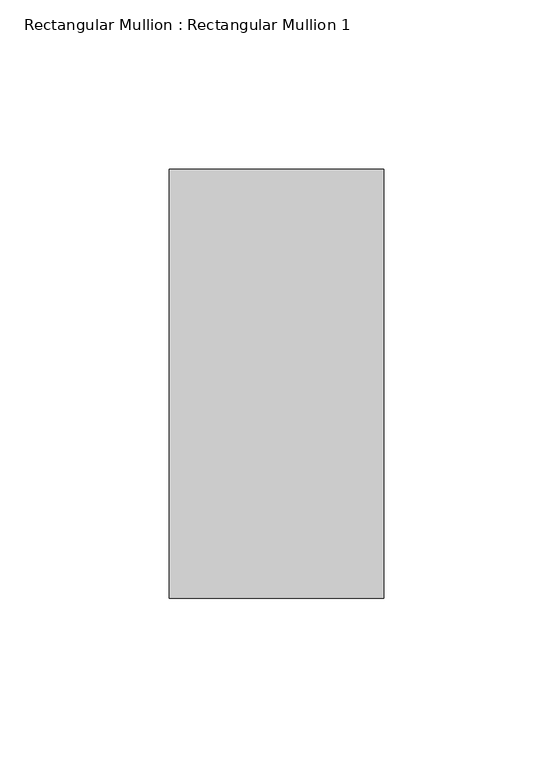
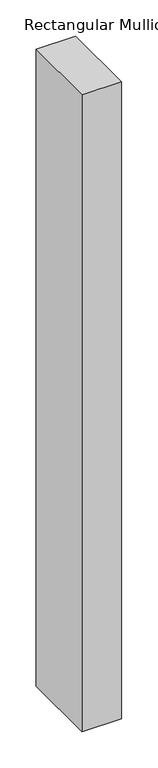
"""IFC4 building model written with IfcOpenShell, lengths in millimetres: member geometry, Rectangular Mullion : Rectangular Mullion 1."""

from ifc_helpers import new_model, si_unit, frame, origin, place, context, project, spatial, polyline, outline, extrude, source, transform, mapped, element, save


def rectangular_mullion_rectangular_mullion_1_92345d6c(model_context):
    return source(origin(), model_context, "Body", "SweptSolid", [
        extrude(outline(polyline([(31.75, 63.5), (31.75, -63.5), (-31.75, -63.5), (-31.75, 63.5), (31.75, 63.5)])), frame((0.0, 0.0, -1075.1608166), z_axis=(0.0, 0.0, 1.0), x_axis=(1.0, 0.0, 0.0)), (0.0, 0.0, 1.0), 1075.1608166),
    ])


if __name__ == "__main__":
    model = new_model("IFC4")
    model_context = context("Model", 3, world=origin())
    ifc_project = project(units=[si_unit("LENGTHUNIT", "METRE", prefix="MILLI")], contexts=[model_context])
    site = spatial("IfcSite", under=ifc_project)
    building = spatial("IfcBuilding", under=site)
    placement = place(None, origin())
    rectangular_mullion_rectangular_mullion_1_shape = rectangular_mullion_rectangular_mullion_1_92345d6c(model_context)
    element("IfcMember", 1, ObjectType="Rectangular Mullion : Rectangular Mullion 1", at=placement, inside=building, context=model_context, shape_type="MappedRepresentation", body=[
        mapped(rectangular_mullion_rectangular_mullion_1_shape, transform((0.0, 0.0, 0.0), x_axis=(1.0, 0.0, 0.0), y_axis=(0.0, 1.0, 0.0), z_axis=(0.0, 0.0, 1.0))),
    ])
    save(model, "model.ifc")
